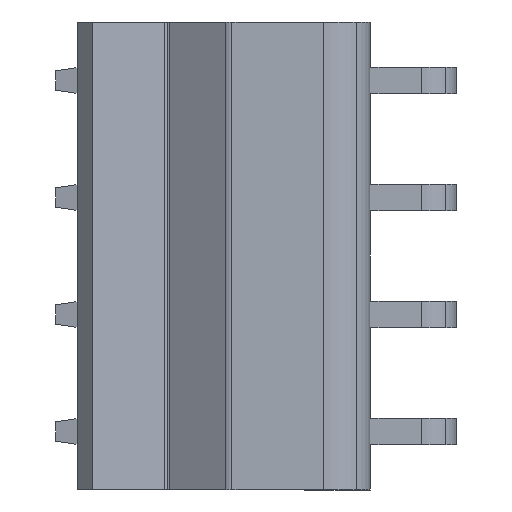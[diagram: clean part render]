
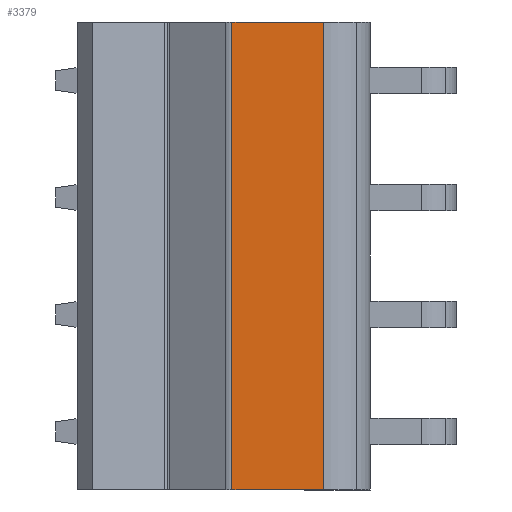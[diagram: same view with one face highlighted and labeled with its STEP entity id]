
A CAD part, left-side view. The second image highlights one B-rep face of the part: STEP entity #3379.
In plain terms, the highlighted planar face has unit normal (-1, 0, 0).
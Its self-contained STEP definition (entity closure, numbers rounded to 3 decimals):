
#149 = LINE ( 'NONE', #1283, #3253 ) ;
#234 = AXIS2_PLACEMENT_3D ( 'NONE', #2088, #2400, #4538 ) ;
#360 = CARTESIAN_POINT ( 'NONE',  ( -7.84, 1.56, 12.728 ) ) ;
#455 = ORIENTED_EDGE ( 'NONE', *, *, #3463, .T. ) ;
#605 = LINE ( 'NONE', #2711, #677 ) ;
#620 = ORIENTED_EDGE ( 'NONE', *, *, #3132, .T. ) ;
#638 = ORIENTED_EDGE ( 'NONE', *, *, #2909, .F. ) ;
#677 = VECTOR ( 'NONE', #4097, 1000. ) ;
#963 = VERTEX_POINT ( 'NONE', #3376 ) ;
#995 = VERTEX_POINT ( 'NONE', #2462 ) ;
#1218 = DIRECTION ( 'NONE',  ( 0., -1., 0. ) ) ;
#1283 = CARTESIAN_POINT ( 'NONE',  ( -7.84, -4.424, 33.048 ) ) ;
#1523 = ORIENTED_EDGE ( 'NONE', *, *, #2849, .F. ) ;
#1601 = DIRECTION ( 'NONE',  ( 0., 0., -1. ) ) ;
#1878 = CARTESIAN_POINT ( 'NONE',  ( -7.84, -4.424, 12.728 ) ) ;
#1922 = VECTOR ( 'NONE', #1601, 1000. ) ;
#1931 = LINE ( 'NONE', #4029, #1922 ) ;
#2088 = CARTESIAN_POINT ( 'NONE',  ( -7.84, -4.424, 27.888 ) ) ;
#2227 = VERTEX_POINT ( 'NONE', #4515 ) ;
#2400 = DIRECTION ( 'NONE',  ( 1., 0., 0. ) ) ;
#2455 = VECTOR ( 'NONE', #2541, 1000. ) ;
#2462 = CARTESIAN_POINT ( 'NONE',  ( -7.84, -2.424, 33.048 ) ) ;
#2541 = DIRECTION ( 'NONE',  ( 0., -1., 0. ) ) ;
#2711 = CARTESIAN_POINT ( 'NONE',  ( -7.84, 1.56, 12.648 ) ) ;
#2849 = EDGE_CURVE ( 'NONE', #995, #963, #1931, .T. ) ;
#2850 = EDGE_LOOP ( 'NONE', ( #455, #620, #1523, #638 ) ) ;
#2909 = EDGE_CURVE ( 'NONE', #2227, #995, #149, .T. ) ;
#3132 = EDGE_CURVE ( 'NONE', #4524, #963, #3958, .T. ) ;
#3253 = VECTOR ( 'NONE', #1218, 1000. ) ;
#3376 = CARTESIAN_POINT ( 'NONE',  ( -7.84, -2.424, 12.728 ) ) ;
#3379 = ADVANCED_FACE ( 'NONE', ( #4521 ), #4195, .F. ) ;
#3463 = EDGE_CURVE ( 'NONE', #2227, #4524, #605, .T. ) ;
#3958 = LINE ( 'NONE', #1878, #2455 ) ;
#4029 = CARTESIAN_POINT ( 'NONE',  ( -7.84, -2.424, 12.648 ) ) ;
#4097 = DIRECTION ( 'NONE',  ( 0., 0., -1. ) ) ;
#4195 = PLANE ( 'NONE',  #234 ) ;
#4515 = CARTESIAN_POINT ( 'NONE',  ( -7.84, 1.56, 33.048 ) ) ;
#4521 = FACE_OUTER_BOUND ( 'NONE', #2850, .T. ) ;
#4524 = VERTEX_POINT ( 'NONE', #360 ) ;
#4538 = DIRECTION ( 'NONE',  ( 0., -1., 0. ) ) ;
